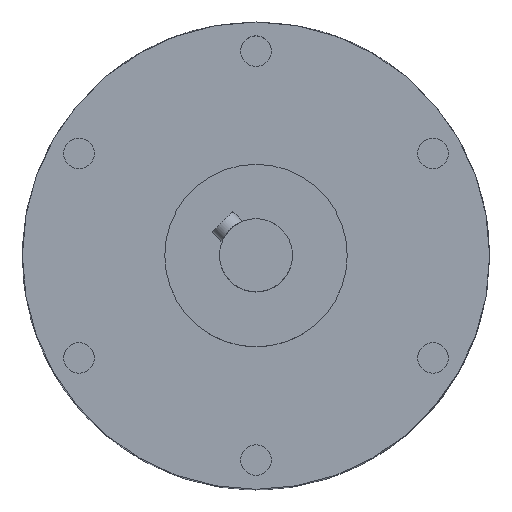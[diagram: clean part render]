
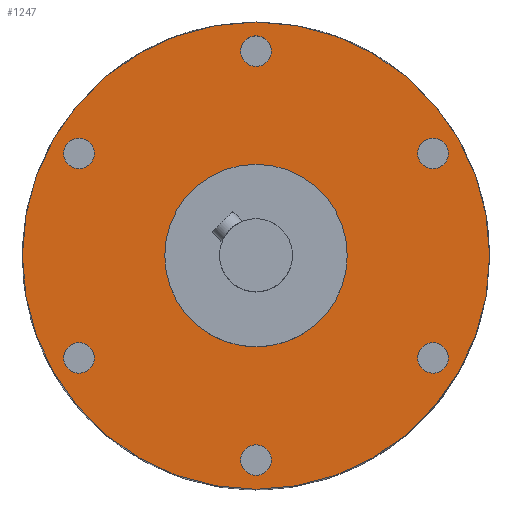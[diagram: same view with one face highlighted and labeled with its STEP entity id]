
A CAD part, top view. The second image highlights one B-rep face of the part: STEP entity #1247.
In plain terms, the highlighted planar face has unit normal (0, 0, 1).
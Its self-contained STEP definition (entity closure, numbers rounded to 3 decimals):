
#195=PLANE('',#1375);
#257=FACE_BOUND('',#412,.T.);
#258=FACE_BOUND('',#413,.T.);
#259=FACE_BOUND('',#414,.T.);
#260=FACE_BOUND('',#415,.T.);
#261=FACE_BOUND('',#416,.T.);
#262=FACE_BOUND('',#417,.T.);
#263=FACE_BOUND('',#418,.T.);
#264=FACE_BOUND('',#419,.T.);
#412=EDGE_LOOP('',(#932));
#413=EDGE_LOOP('',(#933));
#414=EDGE_LOOP('',(#934));
#415=EDGE_LOOP('',(#935));
#416=EDGE_LOOP('',(#936));
#417=EDGE_LOOP('',(#937));
#418=EDGE_LOOP('',(#938));
#419=EDGE_LOOP('',(#939));
#467=CIRCLE('',#1294,2.1);
#469=CIRCLE('',#1298,2.1);
#471=CIRCLE('',#1302,2.1);
#473=CIRCLE('',#1306,2.1);
#476=CIRCLE('',#1311,2.1);
#480=CIRCLE('',#1318,2.1);
#507=CIRCLE('',#1374,32.);
#508=CIRCLE('',#1376,12.5);
#545=VERTEX_POINT('',#1865);
#547=VERTEX_POINT('',#1871);
#549=VERTEX_POINT('',#1877);
#551=VERTEX_POINT('',#1883);
#554=VERTEX_POINT('',#1891);
#558=VERTEX_POINT('',#1902);
#599=VERTEX_POINT('',#2091);
#600=VERTEX_POINT('',#2094);
#657=EDGE_CURVE('',#545,#545,#467,.T.);
#659=EDGE_CURVE('',#547,#547,#469,.T.);
#661=EDGE_CURVE('',#549,#549,#471,.T.);
#663=EDGE_CURVE('',#551,#551,#473,.T.);
#666=EDGE_CURVE('',#554,#554,#476,.T.);
#670=EDGE_CURVE('',#558,#558,#480,.T.);
#723=EDGE_CURVE('',#599,#599,#507,.T.);
#724=EDGE_CURVE('',#600,#600,#508,.T.);
#932=ORIENTED_EDGE('',*,*,#657,.T.);
#933=ORIENTED_EDGE('',*,*,#659,.T.);
#934=ORIENTED_EDGE('',*,*,#661,.T.);
#935=ORIENTED_EDGE('',*,*,#663,.T.);
#936=ORIENTED_EDGE('',*,*,#666,.T.);
#937=ORIENTED_EDGE('',*,*,#670,.T.);
#938=ORIENTED_EDGE('',*,*,#723,.T.);
#939=ORIENTED_EDGE('',*,*,#724,.F.);
#1247=ADVANCED_FACE('',(#257,#258,#259,#260,#261,#262,#263,#264),#195,.T.);
#1294=AXIS2_PLACEMENT_3D('',#1866,#1465,#1466);
#1298=AXIS2_PLACEMENT_3D('',#1872,#1473,#1474);
#1302=AXIS2_PLACEMENT_3D('',#1878,#1481,#1482);
#1306=AXIS2_PLACEMENT_3D('',#1884,#1489,#1490);
#1311=AXIS2_PLACEMENT_3D('',#1892,#1499,#1500);
#1318=AXIS2_PLACEMENT_3D('',#1903,#1513,#1514);
#1374=AXIS2_PLACEMENT_3D('',#2092,#1649,#1650);
#1375=AXIS2_PLACEMENT_3D('',#2093,#1651,#1652);
#1376=AXIS2_PLACEMENT_3D('',#2095,#1653,#1654);
#1465=DIRECTION('center_axis',(0.,0.,-1.));
#1466=DIRECTION('ref_axis',(-1.,0.,0.));
#1473=DIRECTION('center_axis',(0.,0.,-1.));
#1474=DIRECTION('ref_axis',(-1.,0.,0.));
#1481=DIRECTION('center_axis',(0.,0.,-1.));
#1482=DIRECTION('ref_axis',(-1.,0.,0.));
#1489=DIRECTION('center_axis',(0.,0.,-1.));
#1490=DIRECTION('ref_axis',(-1.,0.,0.));
#1499=DIRECTION('center_axis',(0.,0.,-1.));
#1500=DIRECTION('ref_axis',(-1.,0.,0.));
#1513=DIRECTION('center_axis',(0.,0.,-1.));
#1514=DIRECTION('ref_axis',(-1.,0.,0.));
#1649=DIRECTION('center_axis',(0.,0.,1.));
#1650=DIRECTION('ref_axis',(1.,0.,0.));
#1651=DIRECTION('center_axis',(0.,0.,1.));
#1652=DIRECTION('ref_axis',(1.,0.,0.));
#1653=DIRECTION('center_axis',(0.,0.,1.));
#1654=DIRECTION('ref_axis',(1.,0.,0.));
#1865=CARTESIAN_POINT('',(-22.149,-14.,22.5));
#1866=CARTESIAN_POINT('Origin',(-24.249,-14.,22.5));
#1871=CARTESIAN_POINT('',(2.1,28.,22.5));
#1872=CARTESIAN_POINT('Origin',(0.,28.,22.5));
#1877=CARTESIAN_POINT('',(26.349,-14.,22.5));
#1878=CARTESIAN_POINT('Origin',(24.249,-14.,22.5));
#1883=CARTESIAN_POINT('',(2.1,-28.,22.5));
#1884=CARTESIAN_POINT('Origin',(0.,-28.,22.5));
#1891=CARTESIAN_POINT('',(26.349,14.,22.5));
#1892=CARTESIAN_POINT('Origin',(24.249,14.,22.5));
#1902=CARTESIAN_POINT('',(-22.149,14.,22.5));
#1903=CARTESIAN_POINT('Origin',(-24.249,14.,22.5));
#2091=CARTESIAN_POINT('',(32.,0.,22.5));
#2092=CARTESIAN_POINT('Origin',(0.,0.,22.5));
#2093=CARTESIAN_POINT('Origin',(12.5,0.,22.5));
#2094=CARTESIAN_POINT('',(12.5,0.,22.5));
#2095=CARTESIAN_POINT('Origin',(0.,0.,22.5));
